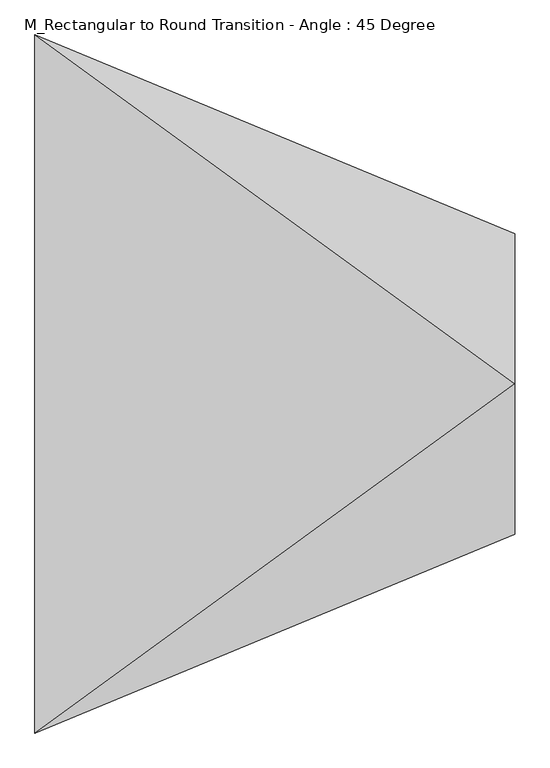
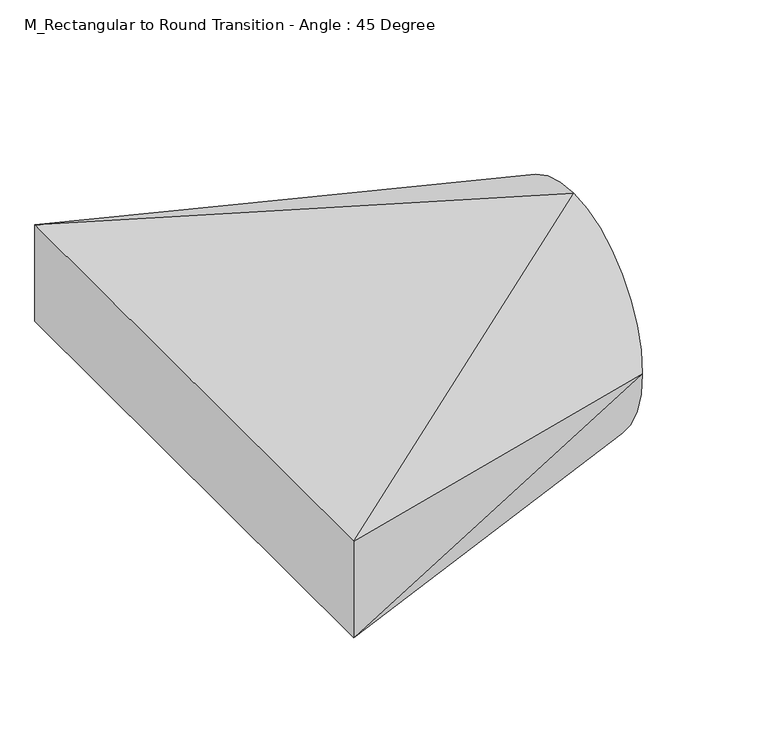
"""IFC4 building model written with IfcOpenShell, lengths in millimetres: duct fitting geometry, M_Rectangular to Round Transition - Angle : 45 Degree."""

import ifcopenshell
import ifcopenshell.guid

model = None  # the IFC model being written
_history = None  # IfcOwnerHistory: only IFC2X3 demands one
_inside = {}  # id of a spatial element -> (the spatial element, [elements in it])
_under = {}  # id of a project, library or spatial element -> (it, [spatial elements below it])
_declared = {}  # id of a project -> (the project, [libraries it declares])
_typed = {}  # id of a type object -> (the type object, [elements of that type])
_made_of = {}  # id of a material, layer set ... -> (it, [elements and type objects made of it])


def new_model(schema):
    """Start an empty IFC model of exactly this schema.

    Asked for "IFC4X3", IfcOpenShell would pick the latest addendum, in which some entities
    have other attributes; the version numbers below select the first issue.
    IFC2X3 requires an IfcOwnerHistory on every rooted entity: one is made here for all.
    """
    global model, _history
    if schema == "IFC4X3":
        model = ifcopenshell.file(schema_version=(4, 3, 0, 0))
    else:
        model = ifcopenshell.file(schema=schema)
    _inside.clear()
    _under.clear()
    _declared.clear()
    _typed.clear()
    _made_of.clear()
    _history = None
    if model.schema == "IFC2X3":
        org = make("IfcOrganization", Name="unknown")
        user = make(
            "IfcPersonAndOrganization",
            ThePerson=make("IfcPerson", FamilyName="unknown"),
            TheOrganization=org,
        )
        app = make(
            "IfcApplication",
            ApplicationDeveloper=org,
            Version="unknown",
            ApplicationFullName="unknown",
            ApplicationIdentifier="unknown",
        )
        _history = make(
            "IfcOwnerHistory",
            OwningUser=user,
            OwningApplication=app,
            ChangeAction="ADDED",
            CreationDate=0,
        )
    return model


def make(cls, **values):
    """One entity of the class cls with the attributes given. An attribute that is None is left unset."""
    return model.create_entity(
        cls, **{name: value for name, value in values.items() if value is not None}
    )


def rooted(cls, **values):
    """An entity with a GlobalId (a new one), such as an element, a storey or a relation."""
    return make(cls, GlobalId=ifcopenshell.guid.new(), OwnerHistory=_history, **values)


def si_unit(unit_type, name, prefix=None):
    """IfcSIUnit, for example si_unit("LENGTHUNIT", "METRE", prefix="MILLI")."""
    return make("IfcSIUnit", UnitType=unit_type, Prefix=prefix, Name=name)


def assignment(units):
    """IfcUnitAssignment: the units of a project."""
    return None if units is None else make("IfcUnitAssignment", Units=units)


def point(xyz):
    """IfcCartesianPoint."""
    return None if xyz is None else make("IfcCartesianPoint", Coordinates=xyz)


def direction(xyz):
    """IfcDirection."""
    return None if xyz is None else make("IfcDirection", DirectionRatios=xyz)


def frame(location, z_axis=None, x_axis=None):
    """IfcAxis2Placement3D, a coordinate frame: its origin and axes. An axis left out is left unset."""
    return make(
        "IfcAxis2Placement3D",
        Location=point(location),
        Axis=direction(z_axis),
        RefDirection=direction(x_axis),
    )


def origin():
    """The frame at (0, 0, 0) with its axes left unset."""
    return frame((0.0, 0.0, 0.0))


def place(relative_to, where):
    """IfcLocalPlacement: puts the frame where relative to a parent placement (None: the world)."""
    return make(
        "IfcLocalPlacement", PlacementRelTo=relative_to, RelativePlacement=where
    )


def context(
    kind, dimensions, precision=None, world=None, true_north=None, identifier=None
):
    """IfcGeometricRepresentationContext, for example the 3D "Model" context."""
    return make(
        "IfcGeometricRepresentationContext",
        ContextIdentifier=identifier,
        ContextType=kind,
        CoordinateSpaceDimension=dimensions,
        Precision=precision,
        WorldCoordinateSystem=world,
        TrueNorth=true_north,
    )


def project(units=None, contexts=None):
    """IfcProject with its units and contexts."""
    return rooted(
        "IfcProject",
        Name="project",
        RepresentationContexts=contexts,
        UnitsInContext=assignment(units),
    )


def spatial(cls, under=None, at=None, **own):
    """A site, building, storey or space (cls), placed at a placement, below another one or the project."""
    s = rooted(cls, ObjectPlacement=at, **own)
    if under is not None:
        _under.setdefault(under.id(), (under, []))[1].append(s)
    return s


def circle_curve(where, radius):
    """IfcCircle in the frame where."""
    return make("IfcCircle", Position=where, Radius=radius)


def shape(context_of_items, identifier, shape_type, items):
    """IfcShapeRepresentation: the items that make up one representation, for example the "Body"."""
    return make(
        "IfcShapeRepresentation",
        ContextOfItems=context_of_items,
        RepresentationIdentifier=identifier,
        RepresentationType=shape_type,
        Items=items,
    )


def source(mapping_origin, context_of_items, identifier, shape_type, items):
    """IfcRepresentationMap: a shape defined once, which mapped items show again and again."""
    return make(
        "IfcRepresentationMap",
        MappingOrigin=mapping_origin,
        MappedRepresentation=shape(context_of_items, identifier, shape_type, items),
    )


def transform(
    local_origin,
    x_axis=None,
    y_axis=None,
    z_axis=None,
    scale=None,
    scale2=None,
    scale3=None,
    uniform=True,
):
    """IfcCartesianTransformationOperator3D, or its non-uniform kind. x_axis, y_axis, z_axis: its Axis1, 2, 3."""
    if uniform:
        return make(
            "IfcCartesianTransformationOperator3D",
            Axis1=direction(x_axis),
            Axis2=direction(y_axis),
            LocalOrigin=point(local_origin),
            Scale=scale,
            Axis3=direction(z_axis),
        )
    return make(
        "IfcCartesianTransformationOperator3DnonUniform",
        Axis1=direction(x_axis),
        Axis2=direction(y_axis),
        LocalOrigin=point(local_origin),
        Scale=scale,
        Axis3=direction(z_axis),
        Scale2=scale2,
        Scale3=scale3,
    )


def mapped(mapping_source, mapping_target):
    """IfcMappedItem: shows the shape of a source again, moved by a transform."""
    return make(
        "IfcMappedItem", MappingSource=mapping_source, MappingTarget=mapping_target
    )


def made_of(thing, what):
    """Note that an element or type object is made of a material, layer set ...; save() writes the relation."""
    if what is not None:
        _made_of.setdefault(what.id(), (what, []))[1].append(thing)
    return thing


def element(
    cls,
    number,
    at=None,
    inside=None,
    cuts=None,
    type_object=None,
    material=None,
    context=None,
    identifier="Body",
    shape_type=None,
    held_by="IfcProductDefinitionShape",
    body=None,
    shapes=None,
    **own,
):
    """One element of the class cls, such as IfcWall. Its Tag is "e" and its number.

    at: its placement. inside: the storey or other place that contains it. cuts: it is an
    opening in that element (IfcRelVoidsElement). A single representation is given by context,
    identifier, shape_type and body (its items); several are given by shapes. held_by: the class
    of the entity that holds the representations. save() writes the other relations.
    """
    e = rooted(cls, Tag="e%d" % number, ObjectPlacement=at, **own)
    if body is not None:
        shapes = [shape(context, identifier, shape_type, body)]
    if shapes is not None:
        e.Representation = make(held_by, Representations=shapes)
    if inside is not None:
        _inside.setdefault(inside.id(), (inside, []))[1].append(e)
    if cuts is not None:
        rooted(
            "IfcRelVoidsElement", RelatingBuildingElement=cuts, RelatedOpeningElement=e
        )
    if type_object is not None:
        _typed.setdefault(type_object.id(), (type_object, []))[1].append(e)
    return made_of(e, material)


def aggregate(whole, parts):
    """IfcRelAggregates: a whole, such as a stair, and the parts it consists of."""
    return rooted("IfcRelAggregates", RelatingObject=whole, RelatedObjects=parts)


def save(model, path):
    """Write the relations noted so far, then the file.

    IfcRelAggregates (storeys below a building ...), IfcRelContainedInSpatialStructure (elements
    in a storey), IfcRelDefinesByType, IfcRelAssociatesMaterial and IfcRelDeclares: one each for
    every whole, place, type object, material and project.
    """
    for whole, parts in _under.values():
        aggregate(whole, parts)
    for where, things in _inside.values():
        rooted(
            "IfcRelContainedInSpatialStructure",
            RelatedElements=things,
            RelatingStructure=where,
        )
    for kind, things in _typed.values():
        rooted("IfcRelDefinesByType", RelatedObjects=things, RelatingType=kind)
    for what, things in _made_of.values():
        rooted("IfcRelAssociatesMaterial", RelatedObjects=things, RelatingMaterial=what)
    for by, libraries in _declared.values():
        rooted("IfcRelDeclares", RelatingContext=by, RelatedDefinitions=libraries)
    model.write(path)


def plane_surface(at):
    """IfcPlane: the flat surface through the origin of the frame at, square to its z axis."""
    return make("IfcPlane", Position=at)


def spline_surface(u_degree, v_degree, points, u_multiplicities, v_multiplicities, u_knots, v_knots, weights=None):
    """IfcBSplineSurfaceWithKnots; with weights, IfcRationalBSplineSurfaceWithKnots. points: one row for each step in u."""
    own = dict(
        UDegree=u_degree,
        VDegree=v_degree,
        ControlPointsList=[[point(p) for p in row] for row in points],
        SurfaceForm="UNSPECIFIED",
        UClosed=False,
        VClosed=False,
        SelfIntersect=False,
        UMultiplicities=u_multiplicities,
        VMultiplicities=v_multiplicities,
        UKnots=u_knots,
        VKnots=v_knots,
        KnotSpec="UNSPECIFIED",
    )
    if weights is None:
        return make("IfcBSplineSurfaceWithKnots", **own)
    return make("IfcRationalBSplineSurfaceWithKnots", WeightsData=weights, **own)


def advanced_brep(points, edges, surfaces, faces):
    """IfcAdvancedBrep: a solid bounded by faces that lie on surfaces and meet in shared edges.

    An edge is (start, end): straight between two places in points (the first is 0);
    or (start, end, curve); or (start, end, curve, False) where it runs against its curve.
    A face is (place in surfaces, loops), or (place, loops, False) where it looks against
    its surface's normal. A loop lists edges by number (the first is 1), with a minus sign
    where the edge is run from its end to its start. The first loop is the outer one.
    """
    corners = [point(p) for p in points]
    vertices = [make("IfcVertexPoint", VertexGeometry=c) for c in corners]
    made = []
    for start, end, *more in edges:
        made.append(
            make(
                "IfcEdgeCurve",
                EdgeStart=vertices[start],
                EdgeEnd=vertices[end],
                EdgeGeometry=more[0] if more else make("IfcPolyline", Points=[corners[start], corners[end]]),
                SameSense=more[1] if len(more) > 1 else True,
            )
        )
    hull = []
    for where, loops, *sense in faces:
        bounds = []
        for j, loop in enumerate(loops):
            ring = [make("IfcOrientedEdge", EdgeElement=made[abs(k) - 1], Orientation=k > 0) for k in loop]
            bounds.append(
                make(
                    "IfcFaceOuterBound" if j == 0 else "IfcFaceBound",
                    Bound=make("IfcEdgeLoop", EdgeList=ring),
                    Orientation=True,
                )
            )
        hull.append(make("IfcAdvancedFace", Bounds=bounds, FaceSurface=surfaces[where], SameSense=sense[0] if sense else True))
    return make("IfcAdvancedBrep", Outer=make("IfcClosedShell", CfsFaces=hull))


def m_rectangular_to_round_transition_angle_45_degree_78946b4e(model_context):
    return source(origin(), model_context, "Body", "AdvancedBrep", [
        advanced_brep(
        [(798.9538008, 0.0, 250.0), (798.9538008, -250.0, 0.0), (798.9538008, 0.0, -250.0), (798.9538008, 250.0, 0.0), (0.0, -580.9375, 107.1375), (0.0, 580.9375, 107.1375), (0.0, 580.9375, -107.1375), (0.0, -580.9375, -107.1375)],
        [
            (0, 1, circle_curve(frame((798.9538008, 0.0, 0.0), z_axis=(1.0, 0.0, 0.0), x_axis=(0.0, 1.0, 0.0)), 250.0)),
            (1, 2, circle_curve(frame((798.9538008, 0.0, 0.0), z_axis=(1.0, 0.0, 0.0), x_axis=(0.0, 1.0, 0.0)), 250.0)),
            (2, 3, circle_curve(frame((798.9538008, 0.0, 0.0), z_axis=(1.0, 0.0, 0.0), x_axis=(0.0, 1.0, 0.0)), 250.0)),
            (3, 0, circle_curve(frame((798.9538008, 0.0, 0.0), z_axis=(1.0, 0.0, 0.0), x_axis=(0.0, 1.0, 0.0)), 250.0)),
            (4, 5),
            (5, 6),
            (6, 7),
            (7, 4),
            (0, 4),
            (4, 1),
            (7, 1),
            (7, 2),
            (6, 2),
            (6, 3),
            (5, 3),
            (5, 0),
        ],
        [
            plane_surface(frame((798.9538008, 0.0, 0.0), z_axis=(1.0, 0.0, 0.0), x_axis=(0.0, 0.0, -1.0))),
            plane_surface(frame((0.0, 0.0, 0.0), z_axis=(-1.0, 0.0, 0.0), x_axis=(0.0, 0.0, -1.0))),
            spline_surface(2, 1, [[(0.0, -580.9375, 107.1375), (798.9538008, 0.0, 250.0)], [(0.0, -580.9375, 107.1375), (798.9538008, -250.0, 250.0)], [(0.0, -580.9375, 107.1375), (798.9538008, -250.0, 0.0)]], [3, 3], [2, 2], [0.0, 1.0], [0.0, 1.0], weights=[[1.0, 1.0], [0.7071067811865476, 0.7071067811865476], [1.0, 1.0]]),
            plane_surface(frame((0.0, -580.9375, 0.0), z_axis=(0.38268343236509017, -0.9238795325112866, 0.0), x_axis=(0.0, 0.0, -1.0))),
            spline_surface(2, 1, [[(0.0, -580.9375, -107.1375), (798.9538008, -250.0, 0.0)], [(0.0, -580.9375, -107.1375), (798.9538008, -250.0, -250.0)], [(0.0, -580.9375, -107.1375), (798.9538008, 0.0, -250.0)]], [3, 3], [2, 2], [0.0, 1.0], [0.0, 1.0], weights=[[1.0, 1.0], [0.7071067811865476, 0.7071067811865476], [1.0, 1.0]]),
            plane_surface(frame((0.0, 0.0, -107.1375), z_axis=(-0.17602009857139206, 0.0, -0.9843865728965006), x_axis=(0.0, 1.0, 0.0))),
            spline_surface(2, 1, [[(0.0, 580.9375, -107.1375), (798.9538008, 0.0, -250.0)], [(0.0, 580.9375, -107.1375), (798.9538008, 250.0, -250.0)], [(0.0, 580.9375, -107.1375), (798.9538008, 250.0, 0.0)]], [3, 3], [2, 2], [0.0, 1.0], [0.0, 1.0], weights=[[1.0, 1.0], [0.7071067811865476, 0.7071067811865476], [1.0, 1.0]]),
            plane_surface(frame((0.0, 580.9375, 0.0), z_axis=(0.3826834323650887, 0.9238795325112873, 0.0), x_axis=(0.0, 0.0, 1.0))),
            spline_surface(2, 1, [[(0.0, 580.9375, 107.1375), (798.9538008, 250.0, 0.0)], [(0.0, 580.9375, 107.1375), (798.9538008, 250.0, 250.0)], [(0.0, 580.9375, 107.1375), (798.9538008, 0.0, 250.0)]], [3, 3], [2, 2], [0.0, 1.0], [0.0, 1.0], weights=[[1.0, 1.0], [0.7071067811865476, 0.7071067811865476], [1.0, 1.0]]),
            plane_surface(frame((0.0, 0.0, 107.1375), z_axis=(-0.17602009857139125, 0.0, 0.9843865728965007), x_axis=(0.0, -1.0, 0.0))),
        ],
        [
            (0, [[1, 2, 3, 4]]),
            (1, [[5, 6, 7, 8]]),
            (2, [[-1, 9, 10]]),
            (3, [[-8, 11, -10]]),
            (4, [[-2, -11, 12]]),
            (5, [[-7, 13, -12]]),
            (6, [[-3, -13, 14]]),
            (7, [[-6, 15, -14]]),
            (8, [[-4, -15, 16]]),
            (9, [[-5, -9, -16]]),
        ],
    ),
    ])


if __name__ == "__main__":
    model = new_model("IFC4")
    model_context = context("Model", 3, world=origin())
    ifc_project = project(units=[si_unit("LENGTHUNIT", "METRE", prefix="MILLI")], contexts=[model_context])
    site = spatial("IfcSite", under=ifc_project)
    building = spatial("IfcBuilding", under=site)
    placement = place(None, origin())
    m_rectangular_to_round_transition_angle_45_degree_shape = m_rectangular_to_round_transition_angle_45_degree_78946b4e(model_context)
    element("IfcDuctFitting", 1, ObjectType="M_Rectangular to Round Transition - Angle : 45 Degree", at=placement, inside=building, context=model_context, shape_type="MappedRepresentation", body=[
        mapped(m_rectangular_to_round_transition_angle_45_degree_shape, transform((0.0, 0.0, 0.0), x_axis=(1.0, 0.0, 0.0), y_axis=(0.0, 1.0, 0.0), z_axis=(0.0, 0.0, 1.0))),
    ])
    save(model, "model.ifc")
